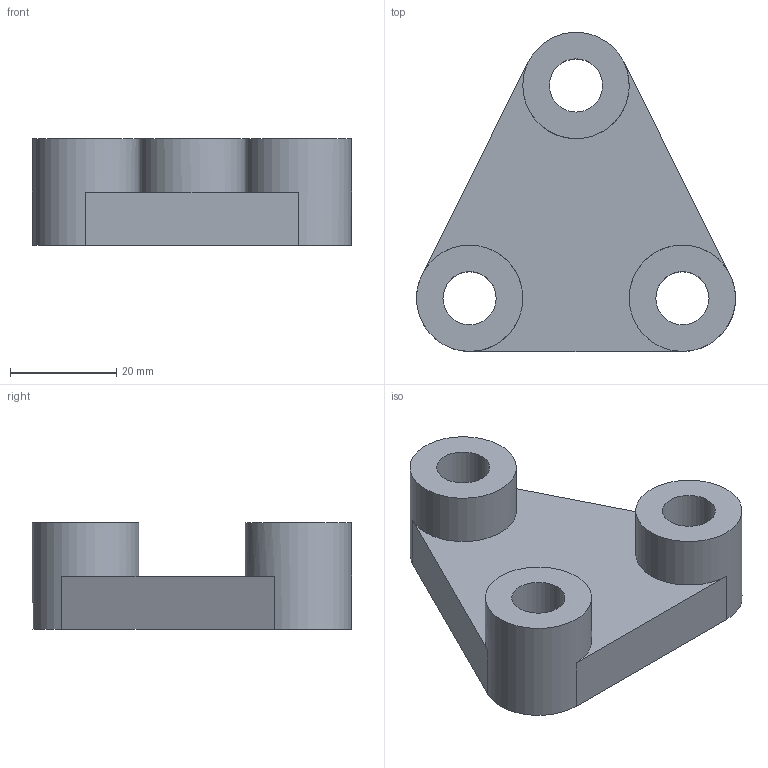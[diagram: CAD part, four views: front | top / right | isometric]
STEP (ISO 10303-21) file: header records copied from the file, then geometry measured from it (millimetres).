
FILE_DESCRIPTION(/* description */ (''),/* implementation_level */ '2;1');
FILE_NAME(/* name */ 'E:\OneDrive\School\Courses\Graphic Communication\Higher\Projects\Technical Graphics\Higher GC Technical Graphics\AS STEP\Section_3.stp',/* time_stamp */ '2020-12-07T16:34:55+00:00',/* author */ ('hunte'),/* organization */ (''),/* preprocessor_version */ 'ST-DEVELOPER v18.1',/* originating_system */ 'Autodesk Inventor 2020',/* authorisation */ '');
FILE_SCHEMA (('AUTOMOTIVE_DESIGN { 1 0 10303 214 3 1 1 }'));
Length unit declared in the file: millimetre
Products named in the file (1): Section_3
Bounding box: 60 x 59.97 x 20 mm (x, y, z)
Volume: 28798.3 mm3; surface area: 10038.6 mm2
Topology: 1 solids, 1 shells, 14 faces, 39 edges, 27 vertices
Faces by surface type: plane 8, cylinder 6
Full cylindrical faces by diameter (mm): 10 x3, 20 x3
Entity records: 521 total; most frequent: DIRECTION 90, CARTESIAN_POINT 81, ORIENTED_EDGE 78, EDGE_CURVE 39, AXIS2_PLACEMENT_3D 36, VERTEX_POINT 27, CIRCLE 21, EDGE_LOOP 20
